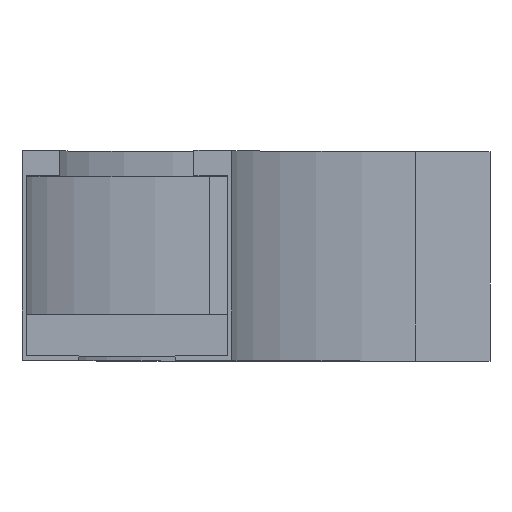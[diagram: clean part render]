
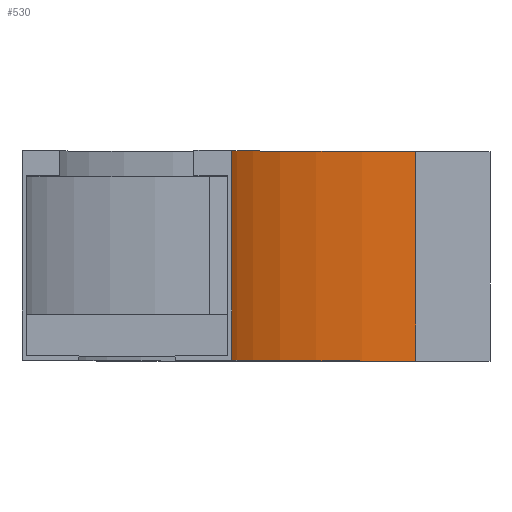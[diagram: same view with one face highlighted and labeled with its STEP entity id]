
A CAD part, top view. The second image highlights one B-rep face of the part: STEP entity #530.
In plain terms, the highlighted cylindrical face has radius 300 mm (diameter 600 mm), a partial arc.
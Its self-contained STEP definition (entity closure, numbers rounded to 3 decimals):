
#16 = CIRCLE ( 'NONE', #936, 300. ) ;
#42 = LINE ( 'NONE', #334, #914 ) ;
#52 = DIRECTION ( 'NONE',  ( 0., 1., 0. ) ) ;
#69 = ORIENTED_EDGE ( 'NONE', *, *, #138, .T. ) ;
#80 = EDGE_LOOP ( 'NONE', ( #1522, #1295, #1084, #69 ) ) ;
#94 = CARTESIAN_POINT ( 'NONE',  ( 0., 100., -50. ) ) ;
#95 = AXIS2_PLACEMENT_3D ( 'NONE', #1544, #258, #770 ) ;
#106 = DIRECTION ( 'NONE',  ( 0., -1., 0. ) ) ;
#138 = EDGE_CURVE ( 'NONE', #546, #411, #42, .T. ) ;
#148 = CARTESIAN_POINT ( 'NONE',  ( 0., 0., -50. ) ) ;
#188 = EDGE_CURVE ( 'NONE', #1274, #546, #16, .T. ) ;
#258 = DIRECTION ( 'NONE',  ( 0., -1., 0. ) ) ;
#334 = CARTESIAN_POINT ( 'NONE',  ( 87.868, 0., -262.132 ) ) ;
#402 = CARTESIAN_POINT ( 'NONE',  ( 300., 0., -50. ) ) ;
#411 = VERTEX_POINT ( 'NONE', #1059 ) ;
#494 = AXIS2_PLACEMENT_3D ( 'NONE', #849, #106, #1633 ) ;
#530 = ADVANCED_FACE ( 'NONE', ( #1383 ), #970, .F. ) ;
#546 = VERTEX_POINT ( 'NONE', #1496 ) ;
#629 = VERTEX_POINT ( 'NONE', #94 ) ;
#656 = LINE ( 'NONE', #1160, #816 ) ;
#674 = EDGE_CURVE ( 'NONE', #629, #411, #1215, .T. ) ;
#770 = DIRECTION ( 'NONE',  ( -1., 0., 0. ) ) ;
#784 = DIRECTION ( 'NONE',  ( 0., 1., 0. ) ) ;
#816 = VECTOR ( 'NONE', #784, 1000. ) ;
#849 = CARTESIAN_POINT ( 'NONE',  ( 300., 0., -50. ) ) ;
#914 = VECTOR ( 'NONE', #52, 1000. ) ;
#915 = DIRECTION ( 'NONE',  ( 0., -1., 0. ) ) ;
#936 = AXIS2_PLACEMENT_3D ( 'NONE', #402, #915, #1380 ) ;
#970 = CYLINDRICAL_SURFACE ( 'NONE', #494, 300. ) ;
#1059 = CARTESIAN_POINT ( 'NONE',  ( 87.868, 100., -262.132 ) ) ;
#1084 = ORIENTED_EDGE ( 'NONE', *, *, #188, .T. ) ;
#1160 = CARTESIAN_POINT ( 'NONE',  ( 0., 0., -50. ) ) ;
#1215 = CIRCLE ( 'NONE', #95, 300. ) ;
#1274 = VERTEX_POINT ( 'NONE', #148 ) ;
#1295 = ORIENTED_EDGE ( 'NONE', *, *, #1547, .F. ) ;
#1380 = DIRECTION ( 'NONE',  ( -1., 0., 0. ) ) ;
#1383 = FACE_OUTER_BOUND ( 'NONE', #80, .T. ) ;
#1496 = CARTESIAN_POINT ( 'NONE',  ( 87.868, 0., -262.132 ) ) ;
#1522 = ORIENTED_EDGE ( 'NONE', *, *, #674, .F. ) ;
#1544 = CARTESIAN_POINT ( 'NONE',  ( 300., 100., -50. ) ) ;
#1547 = EDGE_CURVE ( 'NONE', #1274, #629, #656, .T. ) ;
#1633 = DIRECTION ( 'NONE',  ( 0., 0., -1. ) ) ;
